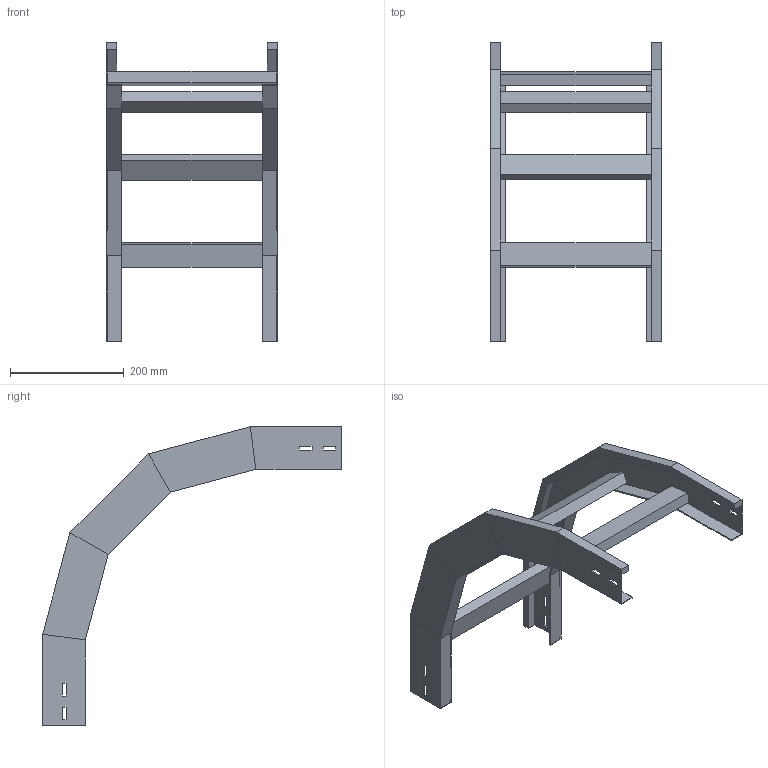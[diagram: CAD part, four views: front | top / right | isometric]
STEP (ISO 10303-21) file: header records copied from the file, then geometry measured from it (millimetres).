
FILE_DESCRIPTION (( 'STEP AP214' ), '1' );
FILE_NAME ('A2_33B3C300.step', '2025-02-21T15:05:27', ( '' ), ( '' ), 'SwSTEP 2.0', 'SolidWorks 2023', '' );
FILE_SCHEMA (( 'AUTOMOTIVE_DESIGN' ));
Length unit declared in the file: millimetre
Products named in the file (3): TRAVERSINO_300; A2_33B3C300; LONGH.DISCESA_90°_H75_R300
Assembly tree (6 placements, depth 2):
  A2_33B3C300
    LONGH.DISCESA_90°_H75_R300  x2
    TRAVERSINO_300  x4
Bounding box: 300 x 524.44 x 524.44 mm (x, y, z)
Volume: 1616829.3 mm3; surface area: 536536 mm2
Topology: 6 solids, 6 shells, 140 faces, 320 edges, 192 vertices
Faces by surface type: plane 140
Entity records: 1872 total; most frequent: CARTESIAN_POINT 309, ORIENTED_EDGE 296, DIRECTION 294, LINE 148, EDGE_CURVE 148, VECTOR 148, VERTEX_POINT 88, AXIS2_PLACEMENT_3D 73
